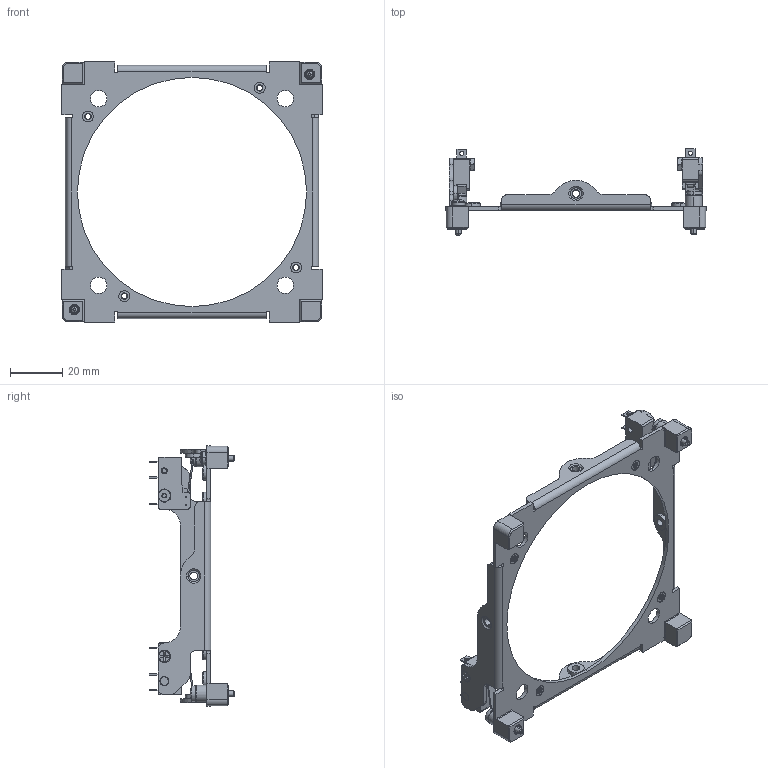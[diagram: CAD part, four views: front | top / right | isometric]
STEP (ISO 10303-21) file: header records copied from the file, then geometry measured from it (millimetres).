
FILE_DESCRIPTION (( 'STEP AP214' ), '1' );
FILE_NAME ('710-02172-A0 Cover Plate, ANTS, Dual Switch.STEP', '2019-12-23T19:29:05', ( '' ), ( '' ), 'SwSTEP 2.0', 'SolidWorks 2014', '' );
FILE_SCHEMA (( 'AUTOMOTIVE_DESIGN' ));
Length unit declared in the file: inch
Products named in the file (2): 710-02172-A0 Cover Plate, ANTS, Dual Switch
Bounding box: 100 x 32.89 x 100 mm (x, y, z)
Volume: 13056.8 mm3; surface area: 16700.1 mm2
Topology: 1 solids, 45 shells, 1467 faces, 3465 edges, 2052 vertices
Faces by surface type: cone 572, plane 444, cylinder 423, torus 20, sphere 8
Entity records: 45574 total; most frequent: DIRECTION 7889, CARTESIAN_POINT 7190, ORIENTED_EDGE 6930, EDGE_CURVE 3465, AXIS2_PLACEMENT_3D 2995, VERTEX_POINT 2052, VECTOR 1899, LINE 1899
